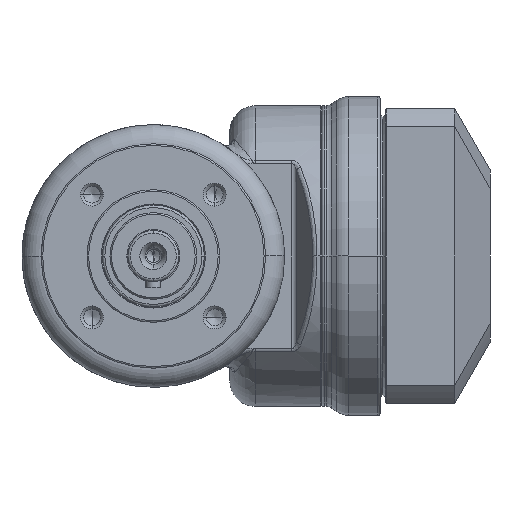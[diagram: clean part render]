
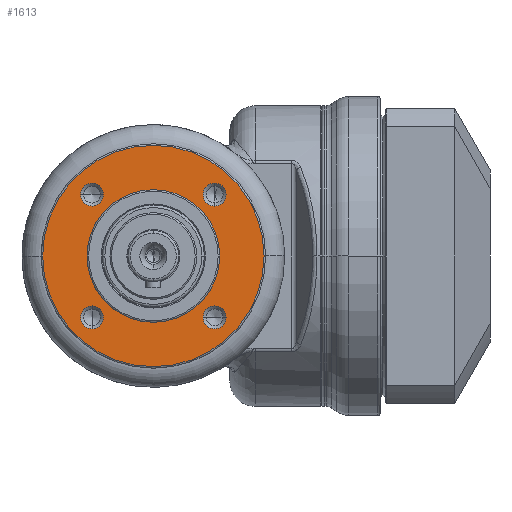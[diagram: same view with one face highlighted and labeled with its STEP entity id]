
A CAD part, left-side view. The second image highlights one B-rep face of the part: STEP entity #1613.
In plain terms, the highlighted planar face has unit normal (-1, 0, 0).
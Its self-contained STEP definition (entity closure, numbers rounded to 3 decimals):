
#211=CARTESIAN_POINT('',(2.,12.021,12.021));
#212=DIRECTION('',(1.,0.,0.));
#213=DIRECTION('',(0.,-1.,0.));
#214=AXIS2_PLACEMENT_3D('',#211,#212,#213);
#216=CARTESIAN_POINT('',(2.,12.021,12.021));
#217=DIRECTION('',(1.,0.,0.));
#218=DIRECTION('',(0.,1.,0.));
#219=AXIS2_PLACEMENT_3D('',#216,#217,#218);
#221=CARTESIAN_POINT('',(2.,12.021,-12.021));
#222=DIRECTION('',(1.,0.,0.));
#223=DIRECTION('',(0.,0.,1.));
#224=AXIS2_PLACEMENT_3D('',#221,#222,#223);
#226=CARTESIAN_POINT('',(2.,12.021,-12.021));
#227=DIRECTION('',(1.,0.,0.));
#228=DIRECTION('',(0.,0.,-1.));
#229=AXIS2_PLACEMENT_3D('',#226,#227,#228);
#231=CARTESIAN_POINT('',(2.,-12.021,-12.021));
#232=DIRECTION('',(1.,0.,0.));
#233=DIRECTION('',(0.,1.,0.));
#234=AXIS2_PLACEMENT_3D('',#231,#232,#233);
#236=CARTESIAN_POINT('',(2.,-12.021,-12.021));
#237=DIRECTION('',(1.,0.,0.));
#238=DIRECTION('',(0.,-1.,0.));
#239=AXIS2_PLACEMENT_3D('',#236,#237,#238);
#241=CARTESIAN_POINT('',(2.,-12.021,12.021));
#242=DIRECTION('',(1.,0.,0.));
#243=DIRECTION('',(0.,0.,-1.));
#244=AXIS2_PLACEMENT_3D('',#241,#242,#243);
#246=CARTESIAN_POINT('',(2.,-12.021,12.021));
#247=DIRECTION('',(1.,0.,0.));
#248=DIRECTION('',(0.,0.,1.));
#249=AXIS2_PLACEMENT_3D('',#246,#247,#248);
#251=CARTESIAN_POINT('',(2.,0.,0.));
#252=DIRECTION('',(-1.,0.,0.));
#253=DIRECTION('',(0.,1.,0.));
#254=AXIS2_PLACEMENT_3D('',#251,#252,#253);
#256=CARTESIAN_POINT('',(2.,0.,0.));
#257=DIRECTION('',(-1.,0.,0.));
#258=DIRECTION('',(0.,-1.,0.));
#259=AXIS2_PLACEMENT_3D('',#256,#257,#258);
#261=CARTESIAN_POINT('',(2.,0.,0.));
#262=DIRECTION('',(1.,0.,0.));
#263=DIRECTION('',(0.,1.,0.));
#264=AXIS2_PLACEMENT_3D('',#261,#262,#263);
#266=CARTESIAN_POINT('',(2.,0.,0.));
#267=DIRECTION('',(1.,0.,0.));
#268=DIRECTION('',(0.,-1.,0.));
#269=AXIS2_PLACEMENT_3D('',#266,#267,#268);
#1101=CARTESIAN_POINT('',(2.,9.771,12.021));
#1102=CARTESIAN_POINT('',(2.,14.271,12.021));
#1103=VERTEX_POINT('',#1101);
#1104=VERTEX_POINT('',#1102);
#1105=CARTESIAN_POINT('',(2.,12.021,-9.771));
#1106=CARTESIAN_POINT('',(2.,12.021,-14.271));
#1107=VERTEX_POINT('',#1105);
#1108=VERTEX_POINT('',#1106);
#1109=CARTESIAN_POINT('',(2.,-9.771,
-12.021));
#1110=CARTESIAN_POINT('',(2.,-14.271,
-12.021));
#1111=VERTEX_POINT('',#1109);
#1112=VERTEX_POINT('',#1110);
#1113=CARTESIAN_POINT('',(2.,-12.021,9.771));
#1114=CARTESIAN_POINT('',(2.,-12.021,14.271));
#1115=VERTEX_POINT('',#1113);
#1116=VERTEX_POINT('',#1114);
#1231=CARTESIAN_POINT('',(2.,13.,0.));
#1232=CARTESIAN_POINT('',(2.,-13.,0.));
#1233=VERTEX_POINT('',#1231);
#1234=VERTEX_POINT('',#1232);
#1263=CARTESIAN_POINT('',(2.,21.7,0.));
#1264=CARTESIAN_POINT('',(2.,-21.7,0.));
#1265=VERTEX_POINT('',#1263);
#1266=VERTEX_POINT('',#1264);
#1574=CARTESIAN_POINT('',(2.,0.,0.));
#1575=DIRECTION('',(-1.,0.,0.));
#1576=DIRECTION('',(0.,1.,0.));
#1577=AXIS2_PLACEMENT_3D('',#1574,#1575,#1576);
#1578=PLANE('',#1577);
#1579=ORIENTED_EDGE('',*,*,#1501,.T.);
#1580=ORIENTED_EDGE('',*,*,#1516,.T.);
#1581=EDGE_LOOP('',(#1579,#1580));
#1582=FACE_OUTER_BOUND('',#1581,.F.);
#1584=ORIENTED_EDGE('',*,*,#1583,.F.);
#1586=ORIENTED_EDGE('',*,*,#1585,.F.);
#1587=EDGE_LOOP('',(#1584,#1586));
#1588=FACE_BOUND('',#1587,.F.);
#1590=ORIENTED_EDGE('',*,*,#1589,.F.);
#1592=ORIENTED_EDGE('',*,*,#1591,.F.);
#1593=EDGE_LOOP('',(#1590,#1592));
#1594=FACE_BOUND('',#1593,.F.);
#1596=ORIENTED_EDGE('',*,*,#1595,.F.);
#1598=ORIENTED_EDGE('',*,*,#1597,.F.);
#1599=EDGE_LOOP('',(#1596,#1598));
#1600=FACE_BOUND('',#1599,.F.);
#1602=ORIENTED_EDGE('',*,*,#1601,.F.);
#1604=ORIENTED_EDGE('',*,*,#1603,.F.);
#1605=EDGE_LOOP('',(#1602,#1604));
#1606=FACE_BOUND('',#1605,.F.);
#1608=ORIENTED_EDGE('',*,*,#1607,.T.);
#1610=ORIENTED_EDGE('',*,*,#1609,.T.);
#1611=EDGE_LOOP('',(#1608,#1610));
#1612=FACE_BOUND('',#1611,.F.);
#1613=ADVANCED_FACE('',(#1582,#1588,#1594,#1600,#1606,#1612),#1578,.T.);
#215=CIRCLE('',#214,2.25);
#220=CIRCLE('',#219,2.25);
#225=CIRCLE('',#224,2.25);
#230=CIRCLE('',#229,2.25);
#235=CIRCLE('',#234,2.25);
#240=CIRCLE('',#239,2.25);
#245=CIRCLE('',#244,2.25);
#250=CIRCLE('',#249,2.25);
#255=CIRCLE('',#254,13.);
#260=CIRCLE('',#259,13.);
#265=CIRCLE('',#264,21.7);
#270=CIRCLE('',#269,21.7);
#1501=EDGE_CURVE('',#1265,#1266,#265,.T.);
#1516=EDGE_CURVE('',#1266,#1265,#270,.T.);
#1583=EDGE_CURVE('',#1103,#1104,#215,.T.);
#1585=EDGE_CURVE('',#1104,#1103,#220,.T.);
#1589=EDGE_CURVE('',#1107,#1108,#225,.T.);
#1591=EDGE_CURVE('',#1108,#1107,#230,.T.);
#1595=EDGE_CURVE('',#1111,#1112,#235,.T.);
#1597=EDGE_CURVE('',#1112,#1111,#240,.T.);
#1601=EDGE_CURVE('',#1115,#1116,#245,.T.);
#1603=EDGE_CURVE('',#1116,#1115,#250,.T.);
#1607=EDGE_CURVE('',#1233,#1234,#255,.T.);
#1609=EDGE_CURVE('',#1234,#1233,#260,.T.);
